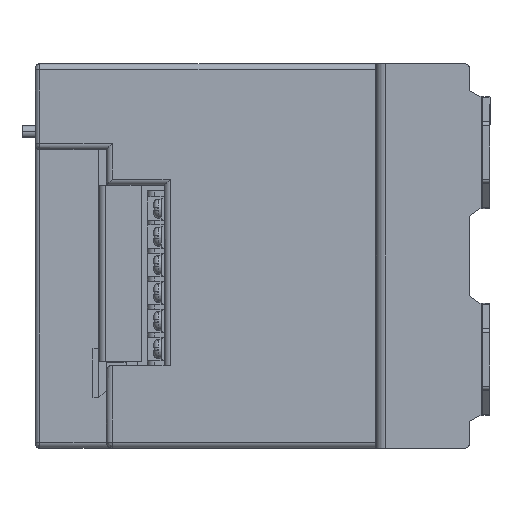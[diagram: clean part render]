
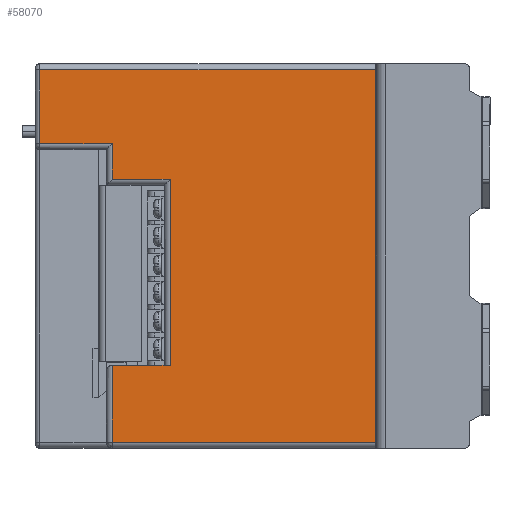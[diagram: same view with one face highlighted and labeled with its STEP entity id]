
A CAD part, left-side view. The second image highlights one B-rep face of the part: STEP entity #58070.
In plain terms, the highlighted planar face has unit normal (-1, 0, 0).
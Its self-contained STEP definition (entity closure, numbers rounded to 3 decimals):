
#895 = CARTESIAN_POINT ( 'NONE',  ( -194.269, 81.353, 97.607 ) ) ;
#1194 = CARTESIAN_POINT ( 'NONE',  ( -194.269, 35.753, 160.607 ) ) ;
#1782 = DIRECTION ( 'NONE',  ( 0., 1., 0. ) ) ;
#1893 = VERTEX_POINT ( 'NONE', #44062 ) ;
#2500 = VECTOR ( 'NONE', #1782, 1000. ) ;
#2804 = EDGE_CURVE ( 'NONE', #41432, #14435, #5175, .T. ) ;
#2836 = CARTESIAN_POINT ( 'NONE',  ( -194.269, 81.353, 71.607 ) ) ;
#2849 = CARTESIAN_POINT ( 'NONE',  ( -194.269, -33.647, 71.607 ) ) ;
#3105 = DIRECTION ( 'NONE',  ( 0., 0., 1. ) ) ;
#3175 = VERTEX_POINT ( 'NONE', #2849 ) ;
#5175 = LINE ( 'NONE', #895, #19943 ) ;
#6338 = ORIENTED_EDGE ( 'NONE', *, *, #24304, .F. ) ;
#6740 = LINE ( 'NONE', #34914, #10965 ) ;
#8391 = EDGE_LOOP ( 'NONE', ( #40608, #59318, #17093, #8443, #6338, #23614, #52053, #45701, #47709, #18683 ) ) ;
#8443 = ORIENTED_EDGE ( 'NONE', *, *, #52388, .F. ) ;
#8930 = VERTEX_POINT ( 'NONE', #1194 ) ;
#9734 = VERTEX_POINT ( 'NONE', #20152 ) ;
#10965 = VECTOR ( 'NONE', #33687, 1000. ) ;
#11084 = LINE ( 'NONE', #44167, #46131 ) ;
#12715 = CARTESIAN_POINT ( 'NONE',  ( -194.269, 55.353, 97.607 ) ) ;
#12920 = DIRECTION ( 'NONE',  ( 0., 0., 1. ) ) ;
#13834 = VECTOR ( 'NONE', #17732, 1000. ) ;
#14435 = VERTEX_POINT ( 'NONE', #27851 ) ;
#14636 = VERTEX_POINT ( 'NONE', #50379 ) ;
#15577 = VECTOR ( 'NONE', #45406, 1000. ) ;
#15673 = CARTESIAN_POINT ( 'NONE',  ( -194.269, 79.853, 172.607 ) ) ;
#16919 = LINE ( 'NONE', #2836, #15577 ) ;
#17093 = ORIENTED_EDGE ( 'NONE', *, *, #34390, .F. ) ;
#17278 = VECTOR ( 'NONE', #19412, 1000. ) ;
#17732 = DIRECTION ( 'NONE',  ( 0., 1., 0. ) ) ;
#18438 = EDGE_CURVE ( 'NONE', #14435, #8930, #28613, .T. ) ;
#18683 = ORIENTED_EDGE ( 'NONE', *, *, #32290, .T. ) ;
#18941 = CARTESIAN_POINT ( 'NONE',  ( -194.269, 55.353, 71.607 ) ) ;
#19412 = DIRECTION ( 'NONE',  ( 0., 0., 1. ) ) ;
#19943 = VECTOR ( 'NONE', #23565, 1000. ) ;
#20152 = CARTESIAN_POINT ( 'NONE',  ( -194.269, 79.853, 197.607 ) ) ;
#23565 = DIRECTION ( 'NONE',  ( 0., -1., 0. ) ) ;
#23614 = ORIENTED_EDGE ( 'NONE', *, *, #18438, .F. ) ;
#23741 = LINE ( 'NONE', #40710, #13834 ) ;
#24304 = EDGE_CURVE ( 'NONE', #8930, #37123, #25055, .T. ) ;
#25055 = LINE ( 'NONE', #43766, #2500 ) ;
#25584 = LINE ( 'NONE', #58066, #46926 ) ;
#27851 = CARTESIAN_POINT ( 'NONE',  ( -194.269, 35.753, 97.607 ) ) ;
#28613 = LINE ( 'NONE', #47290, #17278 ) ;
#32290 = EDGE_CURVE ( 'NONE', #3175, #1893, #25584, .T. ) ;
#33687 = DIRECTION ( 'NONE',  ( 0., 0., 1. ) ) ;
#34390 = EDGE_CURVE ( 'NONE', #14636, #53633, #23741, .T. ) ;
#34914 = CARTESIAN_POINT ( 'NONE',  ( -194.269, 55.353, 69.607 ) ) ;
#35594 = DIRECTION ( 'NONE',  ( 1., 0., 0. ) ) ;
#37123 = VERTEX_POINT ( 'NONE', #44172 ) ;
#37832 = LINE ( 'NONE', #46725, #41589 ) ;
#40608 = ORIENTED_EDGE ( 'NONE', *, *, #51305, .F. ) ;
#40710 = CARTESIAN_POINT ( 'NONE',  ( -194.269, 81.353, 172.607 ) ) ;
#41432 = VERTEX_POINT ( 'NONE', #12715 ) ;
#41589 = VECTOR ( 'NONE', #43047, 1000. ) ;
#43047 = DIRECTION ( 'NONE',  ( 0., 0., 1. ) ) ;
#43766 = CARTESIAN_POINT ( 'NONE',  ( -194.269, 81.353, 160.607 ) ) ;
#44062 = CARTESIAN_POINT ( 'NONE',  ( -194.269, -33.647, 197.607 ) ) ;
#44167 = CARTESIAN_POINT ( 'NONE',  ( -194.269, 81.353, 197.607 ) ) ;
#44172 = CARTESIAN_POINT ( 'NONE',  ( -194.269, 55.353, 160.607 ) ) ;
#44409 = VECTOR ( 'NONE', #3105, 1000. ) ;
#44792 = CARTESIAN_POINT ( 'NONE',  ( -194.269, 81.353, 69.607 ) ) ;
#45097 = PLANE ( 'NONE',  #49330 ) ;
#45406 = DIRECTION ( 'NONE',  ( 0., 1., 0. ) ) ;
#45701 = ORIENTED_EDGE ( 'NONE', *, *, #57290, .F. ) ;
#45996 = CARTESIAN_POINT ( 'NONE',  ( -194.269, 55.353, 69.607 ) ) ;
#46131 = VECTOR ( 'NONE', #57950, 1000. ) ;
#46725 = CARTESIAN_POINT ( 'NONE',  ( -194.269, 79.853, 69.607 ) ) ;
#46926 = VECTOR ( 'NONE', #52578, 1000. ) ;
#47290 = CARTESIAN_POINT ( 'NONE',  ( -194.269, 35.753, 69.607 ) ) ;
#47709 = ORIENTED_EDGE ( 'NONE', *, *, #48036, .F. ) ;
#48036 = EDGE_CURVE ( 'NONE', #3175, #60424, #16919, .T. ) ;
#49330 = AXIS2_PLACEMENT_3D ( 'NONE', #44792, #35594, #12920 ) ;
#50283 = LINE ( 'NONE', #45996, #44409 ) ;
#50379 = CARTESIAN_POINT ( 'NONE',  ( -194.269, 55.353, 172.607 ) ) ;
#51305 = EDGE_CURVE ( 'NONE', #9734, #1893, #11084, .T. ) ;
#52053 = ORIENTED_EDGE ( 'NONE', *, *, #2804, .F. ) ;
#52388 = EDGE_CURVE ( 'NONE', #37123, #14636, #6740, .T. ) ;
#52578 = DIRECTION ( 'NONE',  ( 0., 0., 1. ) ) ;
#53633 = VERTEX_POINT ( 'NONE', #15673 ) ;
#56791 = EDGE_CURVE ( 'NONE', #53633, #9734, #37832, .T. ) ;
#57290 = EDGE_CURVE ( 'NONE', #60424, #41432, #50283, .T. ) ;
#57950 = DIRECTION ( 'NONE',  ( 0., -1., 0. ) ) ;
#58066 = CARTESIAN_POINT ( 'NONE',  ( -194.269, -33.647, 134.607 ) ) ;
#58070 = ADVANCED_FACE ( 'NONE', ( #58284 ), #45097, .F. ) ;
#58284 = FACE_OUTER_BOUND ( 'NONE', #8391, .T. ) ;
#59318 = ORIENTED_EDGE ( 'NONE', *, *, #56791, .F. ) ;
#60424 = VERTEX_POINT ( 'NONE', #18941 ) ;
